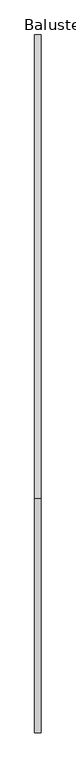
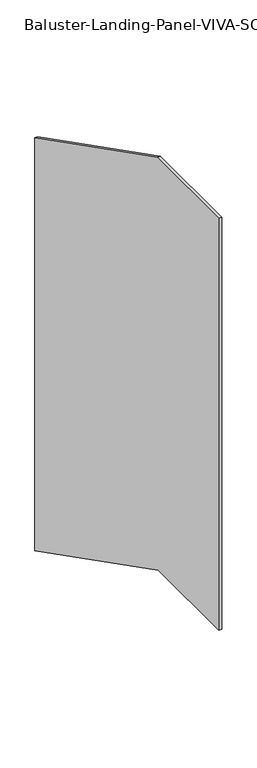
"""IFC4 building model written with IfcOpenShell, lengths in millimetres: railing geometry, Baluster-Landing-Panel-VIVA-SOLO-Lower : Standard_Glass."""

from ifc_helpers import new_model, si_unit, frame, origin, place, context, project, spatial, polyline, outline, extrude, source, transform, mapped, element, save


def baluster_landing_panel_viva_solo_lower_standard_glass_65fc855e(model_context):
    return source(origin(), model_context, "Body", "SweptSolid", [
        extrude(outline(polyline([(-680.085, 1112.52), (5.0108793, 763.7473897), (5.0108793, -649.2575757), (-685.3191767, -297.8203202), (-1025.525, -297.8203202), (-1025.525, 1112.52), (-680.085, 1112.52)])), frame((33.3375, 0.0, 0.0), z_axis=(1.0, 0.0, 0.0), x_axis=(0.0, 1.0, 0.0)), (0.0, 0.0, 1.0), 9.525),
    ])


if __name__ == "__main__":
    model = new_model("IFC4")
    model_context = context("Model", 3, world=origin())
    ifc_project = project(units=[si_unit("LENGTHUNIT", "METRE", prefix="MILLI")], contexts=[model_context])
    site = spatial("IfcSite", under=ifc_project)
    building = spatial("IfcBuilding", under=site)
    placement = place(None, origin())
    baluster_landing_panel_viva_solo_lower_standard_glass_shape = baluster_landing_panel_viva_solo_lower_standard_glass_65fc855e(model_context)
    element("IfcRailing", 1, ObjectType="Baluster-Landing-Panel-VIVA-SOLO-Lower : Standard_Glass", at=placement, inside=building, context=model_context, shape_type="MappedRepresentation", body=[
        mapped(baluster_landing_panel_viva_solo_lower_standard_glass_shape, transform((0.0, 0.0, 0.0), x_axis=(1.0, 0.0, 0.0), y_axis=(0.0, 1.0, 0.0), z_axis=(0.0, 0.0, 1.0))),
    ])
    save(model, "model.ifc")
